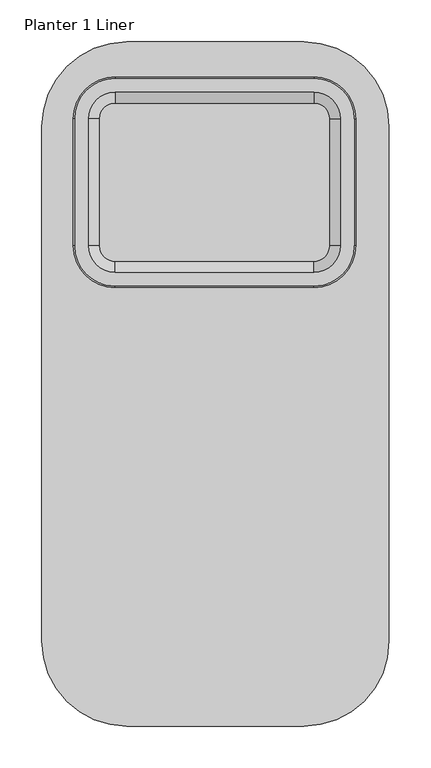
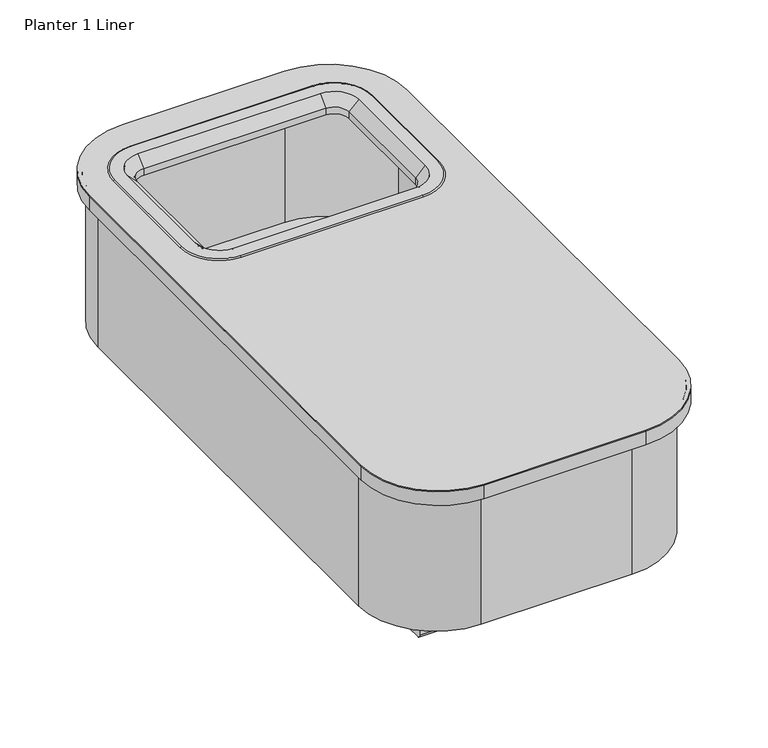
"""IFC4 building model written with IfcOpenShell, lengths in millimetres: furniture geometry, Coalesse_AM_Accessory_Planter_Ensemble_Modular : Planter 1 Liner."""

from ifc_helpers import new_model, si_unit, point, frame, frame_2d, origin, place, context, project, spatial, polyline, circle_curve, ellipse_curve, trimmed, segment, composite_curve, outline, extrude, source, transform, mapped, element, save
from ifc_brep_helpers import plane_surface, cylinder_surface, revolved_surface, advanced_brep


def planter_1_liner_2fb4910a(model_context):
    return source(origin(), model_context, "Body", "SolidModel", [
        advanced_brep(
        [(-99.8317392, 1.5738238, 336.1353963), (1.7667511, 103.1756653, 336.1353963), (1.7667511, 103.1756653, 337.5117024), (-99.8317392, 1.5738238, 337.5117024), (-99.8318137, 6.5835657, 317.458784), (-3.2429907, 103.1755745, 317.458784), (-3.2429907, 103.1755745, 336.1353963), (-99.8318137, 6.5835657, 336.1353963), (-311.6655737, 1.5706763, 337.5117024), (-311.6655737, 1.5706763, 336.1353963), (-311.6656481, 6.5804182, 336.1353963), (-311.6656481, 6.5804182, 317.458784), (-413.2670833, 103.1706763, 337.5117024), (-413.2670833, 103.1706763, 336.1353963), (-408.2573414, 103.1706763, 336.1353963), (-408.2573414, 103.1706763, 317.458784), (-413.2670833, 716.8822036, 337.5117024), (-413.2670833, 716.8822036, 336.1353963), (-408.2573414, 716.8822036, 336.1353963), (-408.2573414, 716.8822036, 317.458784), (-311.6674147, 818.4822036, 337.5117024), (-311.6674147, 818.4822036, 336.1353963), (-311.6673984, 813.4724617, 336.1353963), (-311.6673984, 813.4724617, 317.458784), (-356.4100674, 734.6877585, 317.458784), (-344.7208795, 751.9024687, 317.458784), (-344.7208795, 751.9024687, 337.5117024), (-356.4100674, 734.6877585, 337.5117024), (-99.8447036, 818.4828946, 337.5117024), (-99.8447036, 818.4828946, 336.1353963), (-99.8446872, 813.4731527, 336.1353963), (-99.8446872, 813.4731527, 317.458784), (1.7556278, 716.8847361, 337.5117024), (1.7556278, 716.8847361, 336.1353963), (-3.254114, 716.8846453, 336.1353963), (-3.254114, 716.8846453, 317.458784), (-325.7489393, 758.1941108, 337.5117024), (-88.0437417, 758.1941108, 337.5117024), (-56.2937417, 726.4441108, 337.5117024), (-56.2937417, 575.1960542, 337.5117024), (-88.0437417, 543.4460542, 337.5117024), (-325.7489393, 543.4460542, 337.5117024), (-357.4989393, 575.1960542, 337.5117024), (-357.4989393, 726.4441108, 337.5117024), (-357.4989393, 726.4441108, 317.458784), (-357.4989393, 575.1960542, 317.458784), (-325.7489393, 543.4460542, 317.458784), (-88.0437417, 543.4460542, 317.458784), (-56.2937417, 575.1960542, 317.458784), (-56.2937417, 726.4441108, 317.458784), (-88.0437417, 758.1941108, 317.458784), (-325.7489393, 758.1941108, 317.458784)],
        [
            (0, 1, circle_curve(frame((-99.8332488, 103.1738238, 336.1353963), z_axis=(0.0, 0.0, 1.0), x_axis=(0.9999999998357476, 1.8124700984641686e-05, 0.0)), 101.6)),
            (1, 2),
            (2, 3, circle_curve(frame((-99.8332488, 103.1738238, 337.5117024), z_axis=(0.0, 0.0, -1.0), x_axis=(0.9999999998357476, 1.8124700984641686e-05, 0.0)), 101.6)),
            (3, 0),
            (4, 5, circle_curve(frame((-99.8332488, 103.1738238, 317.458784), z_axis=(0.0, 0.0, 1.0), x_axis=(0.9999999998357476, 1.8124700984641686e-05, 0.0)), 96.5902581)),
            (5, 6),
            (6, 7, circle_curve(frame((-99.8332488, 103.1738238, 336.1353963), z_axis=(0.0, 0.0, -1.0), x_axis=(0.9999999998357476, 1.8124700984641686e-05, 0.0)), 96.5902581)),
            (7, 4),
            (3, 8),
            (8, 9),
            (9, 0),
            (7, 10),
            (10, 11),
            (11, 4),
            (8, 12, circle_curve(frame((-311.6670833, 103.1706763, 337.5117024), z_axis=(0.0, 0.0, -1.0), x_axis=(1.4858351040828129e-05, -0.9999999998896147, 0.0)), 101.6)),
            (12, 13),
            (13, 9, circle_curve(frame((-311.6670833, 103.1706763, 336.1353963), z_axis=(0.0, 0.0, 1.0), x_axis=(1.4858351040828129e-05, -0.9999999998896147, 0.0)), 101.6)),
            (10, 14, circle_curve(frame((-311.6670833, 103.1706763, 336.1353963), z_axis=(0.0, 0.0, -1.0), x_axis=(1.4858351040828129e-05, -0.9999999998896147, 0.0)), 96.5902581)),
            (14, 15),
            (15, 11, circle_curve(frame((-311.6670833, 103.1706763, 317.458784), z_axis=(0.0, 0.0, 1.0), x_axis=(1.4858351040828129e-05, -0.9999999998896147, 0.0)), 96.5902581)),
            (12, 16),
            (16, 17),
            (17, 13),
            (14, 18),
            (18, 19),
            (19, 15),
            (16, 20, circle_curve(frame((-311.6670833, 716.8822036, 337.5117024), z_axis=(0.0, 0.0, -1.0), x_axis=(-1.0, 0.0, 0.0)), 101.6)),
            (20, 21),
            (21, 17, circle_curve(frame((-311.6670833, 716.8822036, 336.1353963), z_axis=(0.0, 0.0, 1.0), x_axis=(-1.0, 0.0, 0.0)), 101.6)),
            (18, 22, circle_curve(frame((-311.6670833, 716.8822036, 336.1353963), z_axis=(0.0, 0.0, -1.0), x_axis=(-1.0, 0.0, 0.0)), 96.5902581)),
            (22, 23),
            (23, 19, circle_curve(frame((-311.6670833, 716.8822036, 317.458784), z_axis=(0.0, 0.0, 1.0), x_axis=(-1.0, 0.0, 0.0)), 96.5902581)),
            (24, 25, circle_curve(frame((-311.6670833, 716.8822036, 317.458784), z_axis=(0.0, 0.0, -1.0), x_axis=(-1.0, 0.0, 0.0)), 48.15571)),
            (25, 26),
            (26, 27, circle_curve(frame((-311.6670833, 716.8822036, 337.5117024), z_axis=(0.0, 0.0, 1.0), x_axis=(-1.0, 0.0, 0.0)), 48.15571)),
            (27, 24),
            (20, 28),
            (28, 29),
            (29, 21),
            (22, 30),
            (30, 31),
            (31, 23),
            (28, 32, circle_curve(frame((-99.8443721, 716.8828946, 337.5117024), z_axis=(0.0, 0.0, -1.0), x_axis=(-3.2622334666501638e-06, 0.9999999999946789, 0.0)), 101.6)),
            (32, 33),
            (33, 29, circle_curve(frame((-99.8443721, 716.8828946, 336.1353963), z_axis=(0.0, 0.0, 1.0), x_axis=(-3.2622334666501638e-06, 0.9999999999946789, 0.0)), 101.6)),
            (30, 34, circle_curve(frame((-99.8443721, 716.8828946, 336.1353963), z_axis=(0.0, 0.0, -1.0), x_axis=(-3.2622334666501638e-06, 0.9999999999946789, 0.0)), 96.5902581)),
            (34, 35),
            (35, 31, circle_curve(frame((-99.8443721, 716.8828946, 317.458784), z_axis=(0.0, 0.0, 1.0), x_axis=(-3.2622334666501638e-06, 0.9999999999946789, 0.0)), 96.5902581)),
            (2, 32),
            (26, 36, circle_curve(frame((-325.7489393, 726.4441108, 337.5117024), z_axis=(0.0, 0.0, -1.0), x_axis=(-1.0, 0.0, 0.0)), 31.75)),
            (36, 37),
            (37, 38, circle_curve(frame((-88.0437417, 726.4441108, 337.5117024), z_axis=(0.0, 0.0, -1.0), x_axis=(0.0, 1.0, 0.0)), 31.75)),
            (38, 39),
            (39, 40, circle_curve(frame((-88.0437417, 575.1960542, 337.5117024), z_axis=(0.0, 0.0, -1.0), x_axis=(1.0, 0.0, 0.0)), 31.75)),
            (40, 41),
            (41, 42, circle_curve(frame((-325.7489393, 575.1960542, 337.5117024), z_axis=(0.0, 0.0, -1.0), x_axis=(0.0, -1.0, 0.0)), 31.75)),
            (42, 43),
            (43, 27, circle_curve(frame((-325.7489393, 726.4441108, 337.5117024), z_axis=(0.0, 0.0, -1.0), x_axis=(-1.0, 0.0, 0.0)), 31.75)),
            (1, 33),
            (6, 34),
            (5, 35),
            (24, 44, circle_curve(frame((-325.7489393, 726.4441108, 317.458784), z_axis=(0.0, 0.0, 1.0), x_axis=(-1.0, 0.0, 0.0)), 31.75)),
            (44, 45),
            (45, 46, circle_curve(frame((-325.7489393, 575.1960542, 317.458784), z_axis=(0.0, 0.0, 1.0), x_axis=(0.0, -1.0, 0.0)), 31.75)),
            (46, 47),
            (47, 48, circle_curve(frame((-88.0437417, 575.1960542, 317.458784), z_axis=(0.0, 0.0, 1.0), x_axis=(1.0, 0.0, 0.0)), 31.75)),
            (48, 49),
            (49, 50, circle_curve(frame((-88.0437417, 726.4441108, 317.458784), z_axis=(0.0, 0.0, 1.0), x_axis=(0.0, 1.0, 0.0)), 31.75)),
            (50, 51),
            (51, 25, circle_curve(frame((-325.7489393, 726.4441108, 317.458784), z_axis=(0.0, 0.0, 1.0), x_axis=(-1.0, 0.0, 0.0)), 31.75)),
            (45, 42),
            (41, 46),
            (44, 43),
            (51, 36),
            (50, 37),
            (49, 38),
            (48, 39),
            (47, 40),
        ],
        [
            cylinder_surface(frame((-99.8332488, 103.1738238, 0.0), z_axis=(0.0, 0.0, -1.0), x_axis=(0.9999999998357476, 1.8124700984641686e-05, 0.0)), 101.6),
            cylinder_surface(frame((-99.8332488, 103.1738238, 0.0), z_axis=(0.0, 0.0, -1.0), x_axis=(0.9999999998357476, 1.8124700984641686e-05, 0.0)), 96.5902581),
            plane_surface(frame((-99.8317392, 1.5738238, 337.5117024), z_axis=(1.4858351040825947e-05, -0.9999999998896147, 0.0), x_axis=(-0.9999999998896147, -1.4858351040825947e-05, 0.0))),
            plane_surface(frame((-99.8318137, 6.5835657, 336.1353963), z_axis=(1.4858351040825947e-05, -0.9999999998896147, 0.0), x_axis=(-0.9999999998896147, -1.4858351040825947e-05, 0.0))),
            cylinder_surface(frame((-311.6670833, 103.1706763, 0.0), z_axis=(0.0, 0.0, -1.0), x_axis=(1.4858351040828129e-05, -0.9999999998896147, 0.0)), 101.6),
            cylinder_surface(frame((-311.6670833, 103.1706763, 0.0), z_axis=(0.0, 0.0, -1.0), x_axis=(1.4858351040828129e-05, -0.9999999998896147, 0.0)), 96.5902581),
            plane_surface(frame((-413.2670833, 103.1706763, 337.5117024), z_axis=(-1.0, 0.0, 0.0), x_axis=(0.0, 1.0, 0.0))),
            plane_surface(frame((-408.2573414, 103.1706763, 336.1353963), z_axis=(-1.0, 0.0, 0.0), x_axis=(0.0, 1.0, 0.0))),
            cylinder_surface(frame((-311.6670833, 716.8822036, 0.0), z_axis=(0.0, 0.0, -1.0), x_axis=(-1.0, 0.0, 0.0)), 101.6),
            cylinder_surface(frame((-311.6670833, 716.8822036, 0.0), z_axis=(0.0, 0.0, -1.0), x_axis=(-1.0, 0.0, 0.0)), 96.5902581),
            revolved_surface(polyline([(-359.8227933, 716.8822036, 317.458784), (-359.8227933, 716.8822036, 337.5117024)]), (-311.6670833, 716.8822036, 0.0), (0.0, 0.0, -1.0)),
            plane_surface(frame((-311.6674147, 818.4822036, 337.5117024), z_axis=(-3.2622334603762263e-06, 0.9999999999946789, 0.0), x_axis=(0.9999999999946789, 3.2622334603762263e-06, 0.0))),
            plane_surface(frame((-311.6673984, 813.4724617, 336.1353963), z_axis=(-3.2622334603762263e-06, 0.9999999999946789, 0.0), x_axis=(0.9999999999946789, 3.2622334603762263e-06, 0.0))),
            cylinder_surface(frame((-99.8443721, 716.8828946, 0.0), z_axis=(0.0, 0.0, -1.0), x_axis=(-3.2622334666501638e-06, 0.9999999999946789, 0.0)), 101.6),
            cylinder_surface(frame((-99.8443721, 716.8828946, 0.0), z_axis=(0.0, 0.0, -1.0), x_axis=(-3.2622334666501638e-06, 0.9999999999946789, 0.0)), 96.5902581),
            plane_surface(frame((-51.6886621, 716.8837674, 337.5117024), z_axis=(0.0, 0.0, 1.0), x_axis=(1.812470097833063e-05, -0.9999999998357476, 0.0))),
            plane_surface(frame((1.7556278, 716.8847361, 337.5117024), z_axis=(0.9999999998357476, 1.81247009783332e-05, 0.0), x_axis=(1.81247009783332e-05, -0.9999999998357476, 0.0))),
            plane_surface(frame((1.7556278, 716.8847361, 336.1353963), z_axis=(0.0, 0.0, -1.0), x_axis=(1.81247009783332e-05, -0.9999999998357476, 0.0))),
            plane_surface(frame((-3.254114, 716.8846453, 336.1353963), z_axis=(0.9999999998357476, 1.812470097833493e-05, 0.0), x_axis=(1.812470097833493e-05, -0.9999999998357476, 0.0))),
            plane_surface(frame((-3.254114, 716.8846453, 317.458784), z_axis=(0.0, 0.0, -1.0), x_axis=(1.812470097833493e-05, -0.9999999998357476, 0.0))),
            revolved_surface(polyline([(-325.7489393, 543.4460542, 317.458784), (-325.7489393, 543.4460542, 337.5117024)]), (-325.7489393, 575.1960542, 0.0), (0.0, 0.0, -1.0)),
            plane_surface(frame((-357.4989393, 575.1960542, 337.5117024), z_axis=(1.0, 0.0, 0.0), x_axis=(0.0, 0.0, -1.0))),
            revolved_surface(polyline([(-357.4989393, 726.4441108, 317.458784), (-357.4989393, 726.4441108, 337.5117024)]), (-325.7489393, 726.4441108, 0.0), (0.0, 0.0, -1.0)),
            plane_surface(frame((-325.7489393, 758.1941108, 337.5117024), z_axis=(0.0, -1.0, 0.0), x_axis=(0.0, 0.0, -1.0))),
            revolved_surface(polyline([(-88.0437417, 758.1941108, 317.458784), (-88.0437417, 758.1941108, 337.5117024)]), (-88.0437417, 726.4441108, 0.0), (0.0, 0.0, -1.0)),
            plane_surface(frame((-56.2937417, 726.4441108, 337.5117024), z_axis=(-1.0, 0.0, 0.0), x_axis=(0.0, 0.0, -1.0))),
            revolved_surface(polyline([(-56.2937417, 575.1960542, 317.458784), (-56.2937417, 575.1960542, 337.5117024)]), (-88.0437417, 575.1960542, 0.0), (0.0, 0.0, -1.0)),
            plane_surface(frame((-88.0437417, 543.4460542, 337.5117024), z_axis=(0.0, 1.0, 0.0), x_axis=(0.0, 0.0, -1.0))),
        ],
        [
            (0, [[1, 2, 3, 4]]),
            (1, [[5, 6, 7, 8]]),
            (2, [[-4, 9, 10, 11]]),
            (3, [[-8, 12, 13, 14]]),
            (4, [[-10, 15, 16, 17]]),
            (5, [[-13, 18, 19, 20]]),
            (6, [[-16, 21, 22, 23]]),
            (7, [[-19, 24, 25, 26]]),
            (8, [[-22, 27, 28, 29]]),
            (9, [[-25, 30, 31, 32]]),
            (10, [[33, 34, 35, 36]]),
            (11, [[-28, 37, 38, 39]]),
            (12, [[-31, 40, 41, 42]]),
            (13, [[-38, 43, 44, 45]]),
            (14, [[-41, 46, 47, 48]]),
            (15, [[-3, 49, -43, -37, -27, -21, -15, -9], [-35, 50, 51, 52, 53, 54, 55, 56, 57, 58]]),
            (16, [[-2, 59, -44, -49]]),
            (17, [[-1, -11, -17, -23, -29, -39, -45, -59], [-7, 60, -46, -40, -30, -24, -18, -12]]),
            (18, [[-6, 61, -47, -60]]),
            (19, [[-5, -14, -20, -26, -32, -42, -48, -61], [-33, 62, 63, 64, 65, 66, 67, 68, 69, 70]]),
            (20, [[-64, 71, -56, 72]]),
            (21, [[-63, 73, -57, -71]]),
            (22, [[-73, -62, -36, -58]]),
            (22, [[74, -50, -34, -70]]),
            (23, [[-69, 75, -51, -74]]),
            (24, [[-68, 76, -52, -75]]),
            (25, [[-67, 77, -53, -76]]),
            (26, [[-66, 78, -54, -77]]),
            (27, [[-65, -72, -55, -78]]),
        ],
    ),
        extrude(outline(composite_curve([segment(polyline([(-311.6674147, 818.4822036), (-99.8447036, 818.4828946)]), True, "CONTINUOUS"), segment(trimmed(circle_curve(frame_2d((-99.8443721, 716.8828946)), 101.6), [point((-99.8447036, 818.4828946))], [point((1.7556278, 716.8847361))], False, "CARTESIAN"), True, "CONTINUOUS"), segment(polyline([(1.7556278, 716.8847361), (1.7667511, 103.1756653)]), True, "CONTINUOUS"), segment(trimmed(circle_curve(frame_2d((-99.8332488, 103.1738238)), 101.6), [point((1.7667511, 103.1756653))], [point((-99.8317392, 1.5738238))], False, "CARTESIAN"), True, "CONTINUOUS"), segment(polyline([(-99.8317392, 1.5738238), (-311.6655737, 1.5706763)]), True, "CONTINUOUS"), segment(trimmed(circle_curve(frame_2d((-311.6670833, 103.1706763)), 101.6), [point((-311.6655737, 1.5706763))], [point((-413.2670833, 103.1706763))], False, "CARTESIAN"), True, "CONTINUOUS"), segment(polyline([(-413.2670833, 103.1706763), (-413.2670833, 716.8822036)]), True, "CONTINUOUS"), segment(trimmed(circle_curve(frame_2d((-311.6670833, 716.8822036)), 101.6), [point((-413.2670833, 716.8822036))], [point((-311.6674147, 818.4822036))], False, "CARTESIAN"), True, "CONTINUOUS")], self_intersect=False), holes=[composite_curve([segment(trimmed(circle_curve(frame_2d((-311.6670833, 716.8822036)), 96.52), [point((-311.6673981, 813.4022036))], [point((-408.1870833, 716.8822036))], True, "CARTESIAN"), True, "CONTINUOUS"), segment(polyline([(-408.1870833, 716.8822036), (-408.1870833, 103.1706763)]), True, "CONTINUOUS"), segment(trimmed(circle_curve(frame_2d((-311.6670833, 103.1706763)), 96.52), [point((-408.1870833, 103.1706763))], [point((-311.6656491, 6.6506763))], True, "CARTESIAN"), True, "CONTINUOUS"), segment(polyline([(-311.6656491, 6.6506763), (-99.8318147, 6.6538238)]), True, "CONTINUOUS"), segment(trimmed(circle_curve(frame_2d((-99.8332488, 103.1738238)), 96.52), [point((-99.8318147, 6.6538238))], [point((-3.3132489, 103.1755732))], True, "CARTESIAN"), True, "CONTINUOUS"), segment(polyline([(-3.3132489, 103.1755732), (-3.3243722, 716.884644)]), True, "CONTINUOUS"), segment(trimmed(circle_curve(frame_2d((-99.8443721, 716.8828946)), 96.52), [point((-3.3243722, 716.884644))], [point((-99.844687, 813.4028946))], True, "CARTESIAN"), True, "CONTINUOUS"), segment(polyline([(-99.844687, 813.4028946), (-311.6673981, 813.4022036)]), True, "CONTINUOUS")], self_intersect=False)]), frame((0.0, 0.0, 317.458784), z_axis=(0.0, 0.0, 1.0), x_axis=(1.0, 0.0, 0.0)), (0.0, 0.0, 1.0), 18.6766123),
        advanced_brep(
        [(-88.0437417, 524.922108, 337.5117024), (-37.7697955, 575.1960542, 337.5117024), (-39.5041047, 575.1960542, 339.0842809), (-88.0437417, 526.6564171, 339.0842809), (-325.7489393, 526.6564171, 339.0842809), (-325.7489393, 524.922108, 337.5117024), (-376.0228855, 575.1960542, 337.5117024), (-374.2885764, 575.1960542, 339.0842809), (-374.2885764, 726.4441108, 339.0842809), (-376.0228855, 726.4441108, 337.5117024), (-325.7489393, 776.718057, 337.5117024), (-325.7489393, 774.9837478, 339.0842809), (-88.0437417, 774.9837478, 339.0842809), (-88.0437417, 776.718057, 337.5117024), (-37.7697955, 726.4441108, 337.5117024), (-39.5041047, 726.4441108, 339.0842809), (-325.7489393, 758.1899065, 339.0842809), (-88.0437417, 758.1899065, 339.0842809), (-56.297946, 726.4441108, 339.0842809), (-56.297946, 575.1960542, 339.0842809), (-88.0437417, 543.4502585, 339.0842809), (-325.7489393, 543.4502585, 339.0842809), (-357.494735, 575.1960542, 339.0842809), (-357.494735, 726.4441108, 339.0842809), (-56.0744732, 575.1960542, 337.5117024), (-56.0744732, 726.4441108, 337.5117024), (-88.0437417, 758.4133793, 337.5117024), (-325.7489393, 758.4133793, 337.5117024), (-357.7182078, 726.4441108, 337.5117024), (-357.7182078, 575.1960542, 337.5117024), (-325.7489393, 543.2267857, 337.5117024), (-88.0437417, 543.2267857, 337.5117024), (-88.0437417, 554.9218418, 325.8166463), (-67.7695293, 575.1960542, 325.8166463), (-88.0437417, 554.9218418, 317.458784), (-67.7695293, 575.1960542, 317.458784), (-88.0437417, 556.1918418, 326.3426976), (-69.0395293, 575.1960542, 326.3426976), (-69.0395293, 575.1960542, 317.458784), (-88.0437417, 556.1918418, 317.458784), (-325.7489393, 554.9218418, 325.8166463), (-325.7489393, 554.9218418, 317.458784), (-325.7489393, 556.1918418, 317.458784), (-325.7489393, 556.1918418, 326.3426976), (-346.0231517, 575.1960542, 325.8166463), (-346.0231517, 575.1960542, 317.458784), (-344.7531517, 575.1960542, 326.3426976), (-344.7531517, 575.1960542, 317.458784), (-346.0231517, 726.4441108, 325.8166463), (-346.0231517, 726.4441108, 317.458784), (-344.7531517, 726.4441108, 317.458784), (-344.7531517, 726.4441108, 326.3426976), (-325.7489393, 746.7183232, 325.8166463), (-325.7489393, 746.7183232, 317.458784), (-325.7489393, 745.4483232, 326.3426976), (-325.7489393, 745.4483232, 317.458784), (-88.0437417, 746.7183232, 325.8166463), (-88.0437417, 746.7183232, 317.458784), (-88.0437417, 745.4483232, 317.458784), (-88.0437417, 745.4483232, 326.3426976), (-67.7695293, 726.4441108, 325.8166463), (-67.7695293, 726.4441108, 317.458784), (-69.0395293, 726.4441108, 326.3426976), (-69.0395293, 726.4441108, 317.458784)],
        [
            (0, 1, circle_curve(frame((-88.0437417, 575.1960542, 337.5117024), z_axis=(0.0, 0.0, 1.0), x_axis=(1.0, 0.0, 0.0)), 50.2739462)),
            (1, 2, circle_curve(frame((-39.5041047, 575.1960542, 337.3416552), z_axis=(0.0, -1.0, 0.0), x_axis=(1.0, 0.0, 0.0)), 1.7426257)),
            (2, 3, circle_curve(frame((-88.0437417, 575.1960542, 339.0842809), z_axis=(0.0, 0.0, -1.0), x_axis=(1.0, 0.0, 0.0)), 48.539637)),
            (3, 0, circle_curve(frame((-88.0437417, 526.6564171, 337.3416552), z_axis=(1.0, 0.0, 0.0), x_axis=(0.0, -1.0, 0.0)), 1.7426257)),
            (3, 4),
            (4, 5, circle_curve(frame((-325.7489393, 526.6564171, 337.3416552), z_axis=(1.0, 0.0, 0.0), x_axis=(0.0, -1.0, 0.0)), 1.7426257)),
            (5, 0),
            (6, 5, circle_curve(frame((-325.7489393, 575.1960542, 337.5117024), z_axis=(0.0, 0.0, 1.0), x_axis=(0.0, -1.0, 0.0)), 50.2739462)),
            (4, 7, circle_curve(frame((-325.7489393, 575.1960542, 339.0842809), z_axis=(0.0, 0.0, -1.0), x_axis=(0.0, -1.0, 0.0)), 48.539637)),
            (7, 6, circle_curve(frame((-374.2885764, 575.1960542, 337.3416552), z_axis=(0.0, -1.0, 0.0), x_axis=(-1.0, 0.0, 0.0)), 1.7426257)),
            (7, 8),
            (8, 9, circle_curve(frame((-374.2885764, 726.4441108, 337.3416552), z_axis=(0.0, -1.0, 0.0), x_axis=(-1.0, 0.0, 0.0)), 1.7426257)),
            (9, 6),
            (10, 9, circle_curve(frame((-325.7489393, 726.4441108, 337.5117024), z_axis=(0.0, 0.0, 1.0), x_axis=(-1.0, 0.0, 0.0)), 50.2739462)),
            (8, 11, circle_curve(frame((-325.7489393, 726.4441108, 339.0842809), z_axis=(0.0, 0.0, -1.0), x_axis=(-1.0, 0.0, 0.0)), 48.539637)),
            (11, 10, circle_curve(frame((-325.7489393, 774.9837478, 337.3416552), z_axis=(-1.0, 0.0, 0.0), x_axis=(0.0, 1.0, 0.0)), 1.7426257)),
            (11, 12),
            (12, 13, circle_curve(frame((-88.0437417, 774.9837478, 337.3416552), z_axis=(-1.0, 0.0, 0.0), x_axis=(0.0, 1.0, 0.0)), 1.7426257)),
            (13, 10),
            (14, 13, circle_curve(frame((-88.0437417, 726.4441108, 337.5117024), z_axis=(0.0, 0.0, 1.0), x_axis=(0.0, 1.0, 0.0)), 50.2739462)),
            (12, 15, circle_curve(frame((-88.0437417, 726.4441108, 339.0842809), z_axis=(0.0, 0.0, -1.0), x_axis=(0.0, 1.0, 0.0)), 48.539637)),
            (15, 14, circle_curve(frame((-39.5041047, 726.4441108, 337.3416552), z_axis=(0.0, 1.0, 0.0), x_axis=(1.0, 0.0, 0.0)), 1.7426257)),
            (2, 15),
            (16, 17),
            (17, 18, circle_curve(frame((-88.0437417, 726.4441108, 339.0842809), z_axis=(0.0, 0.0, -1.0), x_axis=(0.0, 1.0, 0.0)), 31.7457957)),
            (18, 19),
            (19, 20, circle_curve(frame((-88.0437417, 575.1960542, 339.0842809), z_axis=(0.0, 0.0, -1.0), x_axis=(1.0, 0.0, 0.0)), 31.7457957)),
            (20, 21),
            (21, 22, circle_curve(frame((-325.7489393, 575.1960542, 339.0842809), z_axis=(0.0, 0.0, -1.0), x_axis=(0.0, -1.0, 0.0)), 31.7457957)),
            (22, 23),
            (23, 16, circle_curve(frame((-325.7489393, 726.4441108, 339.0842809), z_axis=(0.0, 0.0, -1.0), x_axis=(-1.0, 0.0, 0.0)), 31.7457957)),
            (1, 14),
            (24, 25),
            (25, 26, circle_curve(frame((-88.0437417, 726.4441108, 337.5117024), z_axis=(0.0, 0.0, 1.0), x_axis=(0.0, 1.0, 0.0)), 31.9692685)),
            (26, 27),
            (27, 28, circle_curve(frame((-325.7489393, 726.4441108, 337.5117024), z_axis=(0.0, 0.0, 1.0), x_axis=(-1.0, 0.0, 0.0)), 31.9692685)),
            (28, 29),
            (29, 30, circle_curve(frame((-325.7489393, 575.1960542, 337.5117024), z_axis=(0.0, 0.0, 1.0), x_axis=(0.0, -1.0, 0.0)), 31.9692685)),
            (30, 31),
            (31, 24, circle_curve(frame((-88.0437417, 575.1960542, 337.5117024), z_axis=(0.0, 0.0, 1.0), x_axis=(1.0, 0.0, 0.0)), 31.9692685)),
            (32, 33, circle_curve(frame((-88.0437417, 575.1960542, 325.8166463), z_axis=(0.0, 0.0, 1.0), x_axis=(1.0, 0.0, 0.0)), 20.2742124)),
            (33, 24),
            (31, 32),
            (34, 35, circle_curve(frame((-88.0437417, 575.1960542, 317.458784), z_axis=(0.0, 0.0, 1.0), x_axis=(1.0, 0.0, 0.0)), 20.2742124)),
            (35, 33),
            (32, 34),
            (36, 37, circle_curve(frame((-88.0437417, 575.1960542, 326.3426976), z_axis=(0.0, 0.0, 1.0), x_axis=(1.0, 0.0, 0.0)), 19.0042124)),
            (37, 38),
            (38, 39, circle_curve(frame((-88.0437417, 575.1960542, 317.458784), z_axis=(0.0, 0.0, -1.0), x_axis=(1.0, 0.0, 0.0)), 19.0042124)),
            (39, 36),
            (19, 37),
            (36, 20),
            (30, 40),
            (40, 32),
            (40, 41),
            (41, 34),
            (39, 42),
            (42, 43),
            (43, 36),
            (43, 21),
            (44, 40, circle_curve(frame((-325.7489393, 575.1960542, 325.8166463), z_axis=(0.0, 0.0, 1.0), x_axis=(0.0, -1.0, 0.0)), 20.2742124)),
            (29, 44),
            (45, 41, circle_curve(frame((-325.7489393, 575.1960542, 317.458784), z_axis=(0.0, 0.0, 1.0), x_axis=(0.0, -1.0, 0.0)), 20.2742124)),
            (44, 45),
            (46, 43, circle_curve(frame((-325.7489393, 575.1960542, 326.3426976), z_axis=(0.0, 0.0, 1.0), x_axis=(0.0, -1.0, 0.0)), 19.0042124)),
            (42, 47, circle_curve(frame((-325.7489393, 575.1960542, 317.458784), z_axis=(0.0, 0.0, -1.0), x_axis=(0.0, -1.0, 0.0)), 19.0042124)),
            (47, 46),
            (46, 22),
            (28, 48),
            (48, 44),
            (48, 49),
            (49, 45),
            (47, 50),
            (50, 51),
            (51, 46),
            (51, 23),
            (52, 48, circle_curve(frame((-325.7489393, 726.4441108, 325.8166463), z_axis=(0.0, 0.0, 1.0), x_axis=(-1.0, 0.0, 0.0)), 20.2742124)),
            (27, 52),
            (53, 49, circle_curve(frame((-325.7489393, 726.4441108, 317.458784), z_axis=(0.0, 0.0, 1.0), x_axis=(-1.0, 0.0, 0.0)), 20.2742124)),
            (52, 53),
            (54, 51, circle_curve(frame((-325.7489393, 726.4441108, 326.3426976), z_axis=(0.0, 0.0, 1.0), x_axis=(-1.0, 0.0, 0.0)), 19.0042124)),
            (50, 55, circle_curve(frame((-325.7489393, 726.4441108, 317.458784), z_axis=(0.0, 0.0, -1.0), x_axis=(-1.0, 0.0, 0.0)), 19.0042124)),
            (55, 54),
            (54, 16),
            (26, 56),
            (56, 52),
            (56, 57),
            (57, 53),
            (55, 58),
            (58, 59),
            (59, 54),
            (59, 17),
            (60, 56, circle_curve(frame((-88.0437417, 726.4441108, 325.8166463), z_axis=(0.0, 0.0, 1.0), x_axis=(0.0, 1.0, 0.0)), 20.2742124)),
            (25, 60),
            (61, 57, circle_curve(frame((-88.0437417, 726.4441108, 317.458784), z_axis=(0.0, 0.0, 1.0), x_axis=(0.0, 1.0, 0.0)), 20.2742124)),
            (60, 61),
            (62, 59, circle_curve(frame((-88.0437417, 726.4441108, 326.3426976), z_axis=(0.0, 0.0, 1.0), x_axis=(0.0, 1.0, 0.0)), 19.0042124)),
            (58, 63, circle_curve(frame((-88.0437417, 726.4441108, 317.458784), z_axis=(0.0, 0.0, -1.0), x_axis=(0.0, 1.0, 0.0)), 19.0042124)),
            (63, 62),
            (62, 18),
            (33, 60),
            (35, 61),
            (38, 63),
            (37, 62),
        ],
        [
            revolved_surface(trimmed(ellipse_curve(frame((-39.5041047, 575.1960542, 337.3416552), z_axis=(0.0, 1.0, 0.0), x_axis=(1.0, 0.0, 0.0)), 1.7426257, 1.7426257), [point((-39.5041047, 575.1960542, 339.0842809))], [point((-37.7697955, 575.1960542, 337.5117024))], True, "CARTESIAN"), (-88.0437417, 575.1960542, 0.0), (0.0, 0.0, -1.0)),
            cylinder_surface(frame((-88.0437417, 526.6564171, 337.3416552), z_axis=(1.0, 0.0, 0.0), x_axis=(0.0, -1.0, 0.0)), 1.7426257),
            revolved_surface(trimmed(ellipse_curve(frame((-325.7489393, 526.6564171, 337.3416552), z_axis=(1.0, 0.0, 0.0), x_axis=(0.0, -1.0, 0.0)), 1.7426257, 1.7426257), [point((-325.7489393, 526.6564171, 339.0842809))], [point((-325.7489393, 524.922108, 337.5117024))], True, "CARTESIAN"), (-325.7489393, 575.1960542, 0.0), (0.0, 0.0, -1.0)),
            cylinder_surface(frame((-374.2885764, 575.1960542, 337.3416552), z_axis=(0.0, -1.0, 0.0), x_axis=(-1.0, 0.0, 0.0)), 1.7426257),
            revolved_surface(trimmed(ellipse_curve(frame((-374.2885764, 726.4441108, 337.3416552), z_axis=(0.0, -1.0, 0.0), x_axis=(-1.0, 0.0, 0.0)), 1.7426257, 1.7426257), [point((-374.2885764, 726.4441108, 339.0842809))], [point((-376.0228855, 726.4441108, 337.5117024))], True, "CARTESIAN"), (-325.7489393, 726.4441108, 0.0), (0.0, 0.0, -1.0)),
            cylinder_surface(frame((-325.7489393, 774.9837478, 337.3416552), z_axis=(-1.0, 0.0, 0.0), x_axis=(0.0, 1.0, 0.0)), 1.7426257),
            revolved_surface(trimmed(ellipse_curve(frame((-88.0437417, 774.9837478, 337.3416552), z_axis=(-1.0, 0.0, 0.0), x_axis=(0.0, 1.0, 0.0)), 1.7426257, 1.7426257), [point((-88.0437417, 774.9837478, 339.0842809))], [point((-88.0437417, 776.718057, 337.5117024))], True, "CARTESIAN"), (-88.0437417, 726.4441108, 0.0), (0.0, 0.0, -1.0)),
            plane_surface(frame((-56.297946, 726.4441108, 339.0842809), z_axis=(0.0, 0.0, 1.0), x_axis=(0.0, -1.0, 0.0))),
            cylinder_surface(frame((-39.5041047, 726.4441108, 337.3416552), z_axis=(0.0, 1.0, 0.0), x_axis=(1.0, 0.0, 0.0)), 1.7426257),
            plane_surface(frame((-37.7697955, 726.4441108, 337.5117024), z_axis=(0.0, 0.0, -1.0), x_axis=(0.0, -1.0, 0.0))),
            revolved_surface(polyline([(-56.0744732, 575.1960542, 337.5117024), (-67.7695293, 575.1960542, 325.8166463)]), (-88.0437417, 575.1960542, 0.0), (0.0, 0.0, -1.0)),
            cylinder_surface(frame((-88.0437417, 575.1960542, 0.0), z_axis=(0.0, 0.0, -1.0), x_axis=(1.0, 0.0, 0.0)), 20.2742124),
            revolved_surface(polyline([(-69.0395293, 575.1960542, 317.458784), (-69.0395293, 575.1960542, 326.3426976)]), (-88.0437417, 575.1960542, 0.0), (0.0, 0.0, -1.0)),
            revolved_surface(polyline([(-69.0395293, 575.1960542, 326.3426976), (-56.297946, 575.1960542, 339.0842809)]), (-88.0437417, 575.1960542, 0.0), (0.0, 0.0, -1.0)),
            plane_surface(frame((-88.0437417, 543.2267857, 337.5117024), z_axis=(0.0, -0.7071067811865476, -0.7071067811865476), x_axis=(-1.0, 0.0, 0.0))),
            plane_surface(frame((-88.0437417, 554.9218418, 325.8166463), z_axis=(0.0, -1.0, 0.0), x_axis=(-1.0, 0.0, 0.0))),
            plane_surface(frame((-88.0437417, 556.1918418, 317.458784), z_axis=(0.0, 1.0, 0.0), x_axis=(-1.0, 0.0, 0.0))),
            plane_surface(frame((-88.0437417, 556.1918418, 326.3426976), z_axis=(0.0, 0.7071067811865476, 0.7071067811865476), x_axis=(-1.0, 0.0, 0.0))),
            revolved_surface(polyline([(-325.7489393, 543.2267857, 337.5117024), (-325.7489393, 554.9218418, 325.8166463)]), (-325.7489393, 575.1960542, 0.0), (0.0, 0.0, -1.0)),
            cylinder_surface(frame((-325.7489393, 575.1960542, 0.0), z_axis=(0.0, 0.0, -1.0), x_axis=(0.0, -1.0, 0.0)), 20.2742124),
            revolved_surface(polyline([(-325.7489393, 556.1918418, 317.458784), (-325.7489393, 556.1918418, 326.3426976)]), (-325.7489393, 575.1960542, 0.0), (0.0, 0.0, -1.0)),
            revolved_surface(polyline([(-325.7489393, 556.1918418, 326.3426976), (-325.7489393, 543.4502585, 339.0842809)]), (-325.7489393, 575.1960542, 0.0), (0.0, 0.0, -1.0)),
            plane_surface(frame((-357.7182078, 575.1960542, 337.5117024), z_axis=(-0.7071067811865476, 0.0, -0.7071067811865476), x_axis=(0.0, 1.0, 0.0))),
            plane_surface(frame((-346.0231517, 575.1960542, 325.8166463), z_axis=(-1.0, 0.0, 0.0), x_axis=(0.0, 1.0, 0.0))),
            plane_surface(frame((-344.7531517, 575.1960542, 317.458784), z_axis=(1.0, 0.0, 0.0), x_axis=(0.0, 1.0, 0.0))),
            plane_surface(frame((-344.7531517, 575.1960542, 326.3426976), z_axis=(0.7071067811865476, 0.0, 0.7071067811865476), x_axis=(0.0, 1.0, 0.0))),
            revolved_surface(polyline([(-357.7182078, 726.4441108, 337.5117024), (-346.0231517, 726.4441108, 325.8166463)]), (-325.7489393, 726.4441108, 0.0), (0.0, 0.0, -1.0)),
            cylinder_surface(frame((-325.7489393, 726.4441108, 0.0), z_axis=(0.0, 0.0, -1.0), x_axis=(-1.0, 0.0, 0.0)), 20.2742124),
            revolved_surface(polyline([(-344.7531517, 726.4441108, 317.458784), (-344.7531517, 726.4441108, 326.3426976)]), (-325.7489393, 726.4441108, 0.0), (0.0, 0.0, -1.0)),
            revolved_surface(polyline([(-344.7531517, 726.4441108, 326.3426976), (-357.494735, 726.4441108, 339.0842809)]), (-325.7489393, 726.4441108, 0.0), (0.0, 0.0, -1.0)),
            plane_surface(frame((-325.7489393, 758.4133793, 337.5117024), z_axis=(0.0, 0.7071067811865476, -0.7071067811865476), x_axis=(1.0, 0.0, 0.0))),
            plane_surface(frame((-325.7489393, 746.7183232, 325.8166463), z_axis=(0.0, 1.0, 0.0), x_axis=(1.0, 0.0, 0.0))),
            plane_surface(frame((-325.7489393, 745.4483232, 317.458784), z_axis=(0.0, -1.0, 0.0), x_axis=(1.0, 0.0, 0.0))),
            plane_surface(frame((-325.7489393, 745.4483232, 326.3426976), z_axis=(0.0, -0.7071067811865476, 0.7071067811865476), x_axis=(1.0, 0.0, 0.0))),
            revolved_surface(polyline([(-88.0437417, 758.4133793, 337.5117024), (-88.0437417, 746.7183232, 325.8166463)]), (-88.0437417, 726.4441108, 0.0), (0.0, 0.0, -1.0)),
            cylinder_surface(frame((-88.0437417, 726.4441108, 0.0), z_axis=(0.0, 0.0, -1.0), x_axis=(0.0, 1.0, 0.0)), 20.2742124),
            revolved_surface(polyline([(-88.0437417, 745.4483232, 317.458784), (-88.0437417, 745.4483232, 326.3426976)]), (-88.0437417, 726.4441108, 0.0), (0.0, 0.0, -1.0)),
            revolved_surface(polyline([(-88.0437417, 745.4483232, 326.3426976), (-88.0437417, 758.1899065, 339.0842809)]), (-88.0437417, 726.4441108, 0.0), (0.0, 0.0, -1.0)),
            plane_surface(frame((-56.0744732, 726.4441108, 337.5117024), z_axis=(0.7071067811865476, 0.0, -0.7071067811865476), x_axis=(0.0, -1.0, 0.0))),
            plane_surface(frame((-67.7695293, 726.4441108, 325.8166463), z_axis=(1.0, 0.0, 0.0), x_axis=(0.0, -1.0, 0.0))),
            plane_surface(frame((-67.7695293, 726.4441108, 317.458784), z_axis=(0.0, 0.0, -1.0), x_axis=(0.0, -1.0, 0.0))),
            plane_surface(frame((-69.0395293, 726.4441108, 317.458784), z_axis=(-1.0, 0.0, 0.0), x_axis=(0.0, -1.0, 0.0))),
            plane_surface(frame((-69.0395293, 726.4441108, 326.3426976), z_axis=(-0.7071067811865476, 0.0, 0.7071067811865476), x_axis=(0.0, -1.0, 0.0))),
        ],
        [
            (0, [[1, 2, 3, 4]]),
            (1, [[-4, 5, 6, 7]]),
            (2, [[8, -6, 9, 10]]),
            (3, [[-10, 11, 12, 13]]),
            (4, [[14, -12, 15, 16]]),
            (5, [[-16, 17, 18, 19]]),
            (6, [[20, -18, 21, 22]]),
            (7, [[23, -21, -17, -15, -11, -9, -5, -3], [24, 25, 26, 27, 28, 29, 30, 31]]),
            (8, [[-22, -23, -2, 32]]),
            (9, [[-19, -20, -32, -1, -7, -8, -13, -14], [33, 34, 35, 36, 37, 38, 39, 40]]),
            (10, [[41, 42, -40, 43]]),
            (11, [[44, 45, -41, 46]]),
            (12, [[47, 48, 49, 50]]),
            (13, [[-27, 51, -47, 52]]),
            (14, [[-43, -39, 53, 54]]),
            (15, [[-46, -54, 55, 56]]),
            (16, [[-50, 57, 58, 59]]),
            (17, [[-52, -59, 60, -28]]),
            (18, [[61, -53, -38, 62]]),
            (19, [[63, -55, -61, 64]]),
            (20, [[65, -58, 66, 67]]),
            (21, [[-29, -60, -65, 68]]),
            (22, [[-62, -37, 69, 70]]),
            (23, [[-64, -70, 71, 72]]),
            (24, [[-67, 73, 74, 75]]),
            (25, [[-68, -75, 76, -30]]),
            (26, [[77, -69, -36, 78]]),
            (27, [[79, -71, -77, 80]]),
            (28, [[81, -74, 82, 83]]),
            (29, [[-31, -76, -81, 84]]),
            (30, [[-78, -35, 85, 86]]),
            (31, [[-80, -86, 87, 88]]),
            (32, [[-83, 89, 90, 91]]),
            (33, [[-84, -91, 92, -24]]),
            (34, [[93, -85, -34, 94]]),
            (35, [[95, -87, -93, 96]]),
            (36, [[97, -90, 98, 99]]),
            (37, [[-25, -92, -97, 100]]),
            (38, [[-94, -33, -42, 101]]),
            (39, [[-96, -101, -45, 102]]),
            (40, [[-88, -95, -102, -44, -56, -63, -72, -79], [103, -98, -89, -82, -73, -66, -57, -49]]),
            (41, [[-99, -103, -48, 104]]),
            (42, [[-100, -104, -51, -26]]),
        ],
    ),
        extrude(outline(composite_curve([segment(trimmed(circle_curve(frame_2d((-303.8321315, 707.9918722)), 95.25), [point((-399.0821315, 707.9918722))], [point((-303.8321315, 803.2418722))], False, "CARTESIAN"), True, "CONTINUOUS"), segment(polyline([(-303.8321315, 803.2418722), (-109.5250383, 803.2418722)]), True, "CONTINUOUS"), segment(trimmed(circle_curve(frame_2d((-109.5250383, 707.9918722)), 95.25), [point((-109.5250383, 803.2418722))], [point((-14.2750383, 707.9918722))], False, "CARTESIAN"), True, "CONTINUOUS"), segment(polyline([(-14.2750383, 707.9918722), (-14.2750383, 120.3961637)]), True, "CONTINUOUS"), segment(trimmed(circle_curve(frame_2d((-108.2550383, 120.3961637)), 93.98), [point((-14.2750383, 120.3961637))], [point((-108.2550383, 26.4161637))], False, "CARTESIAN"), True, "CONTINUOUS"), segment(polyline([(-108.2550383, 26.4161637), (-305.1021315, 26.4161637)]), True, "CONTINUOUS"), segment(trimmed(circle_curve(frame_2d((-305.1021315, 120.3961637)), 93.98), [point((-305.1021315, 26.4161637))], [point((-399.0821315, 120.3961637))], False, "CARTESIAN"), True, "CONTINUOUS"), segment(polyline([(-399.0821315, 120.3961637), (-399.0821315, 707.9918722)]), True, "CONTINUOUS")], self_intersect=False)), frame((0.0, 0.0, 131.1254356), z_axis=(0.0, 0.0, 1.0), x_axis=(1.0, 0.0, 0.0)), (0.0, 0.0, 1.0), 10.0545105),
        extrude(outline(composite_curve([segment(trimmed(circle_curve(frame_2d((108.865872, 125.0107271)), 5.08), [point((103.785872, 125.0107271))], [point((108.865872, 130.0907271))], False, "CARTESIAN"), True, "CONTINUOUS"), segment(polyline([(108.865872, 130.0907271), (128.9876575, 130.0907271)]), True, "CONTINUOUS"), segment(trimmed(circle_curve(frame_2d((128.9876575, 125.0107271)), 5.08), [point((128.9876575, 130.0907271))], [point((134.0676575, 125.0107271))], False, "CARTESIAN"), True, "CONTINUOUS"), segment(polyline([(134.0676575, 125.0107271), (134.0676575, 75.5475648)]), True, "CONTINUOUS"), segment(trimmed(circle_curve(frame_2d((129.0980339, 75.5475648)), 4.9696236), [point((134.0676575, 75.5475648))], [point((129.0980339, 70.5779413))], False, "CARTESIAN"), True, "CONTINUOUS"), segment(polyline([(129.0980339, 70.5779413), (108.865872, 70.5779413)]), True, "CONTINUOUS"), segment(trimmed(circle_curve(frame_2d((108.865872, 75.6579413)), 5.08), [point((108.865872, 70.5779413))], [point((103.785872, 75.6579413))], False, "CARTESIAN"), True, "CONTINUOUS"), segment(polyline([(103.785872, 75.6579413), (103.785872, 125.0107271)]), True, "CONTINUOUS")], self_intersect=False)), frame((-335.7539124, 0.0, 0.0), z_axis=(1.0, 0.0, 0.0), x_axis=(0.0, 1.0, 0.0)), (0.0, 0.0, 1.0), 259.9987358),
        extrude(outline(composite_curve([segment(trimmed(circle_curve(frame_2d((688.6735965, 125.0107271)), 5.08), [point((683.5935965, 125.0107271))], [point((688.6735965, 130.0907271))], False, "CARTESIAN"), True, "CONTINUOUS"), segment(polyline([(688.6735965, 130.0907271), (708.795382, 130.0907271)]), True, "CONTINUOUS"), segment(trimmed(circle_curve(frame_2d((708.795382, 125.0107271)), 5.08), [point((708.795382, 130.0907271))], [point((713.875382, 125.0107271))], False, "CARTESIAN"), True, "CONTINUOUS"), segment(polyline([(713.875382, 125.0107271), (713.875382, 75.5475648)]), True, "CONTINUOUS"), segment(trimmed(circle_curve(frame_2d((708.9057584, 75.5475648)), 4.9696236), [point((713.875382, 75.5475648))], [point((708.9057584, 70.5779413))], False, "CARTESIAN"), True, "CONTINUOUS"), segment(polyline([(708.9057584, 70.5779413), (688.6735965, 70.5779413)]), True, "CONTINUOUS"), segment(trimmed(circle_curve(frame_2d((688.6735965, 75.6579413)), 5.08), [point((688.6735965, 70.5779413))], [point((683.5935965, 75.6579413))], False, "CARTESIAN"), True, "CONTINUOUS"), segment(polyline([(683.5935965, 75.6579413), (683.5935965, 125.0107271)]), True, "CONTINUOUS")], self_intersect=False)), frame((-335.7539124, 0.0, 0.0), z_axis=(1.0, 0.0, 0.0), x_axis=(0.0, 1.0, 0.0)), (0.0, 0.0, 1.0), 259.9987358),
        extrude(outline(composite_curve([segment(trimmed(circle_curve(frame_2d((-108.2550383, 709.2618722)), 101.6), [point((-108.2550383, 810.8618722))], [point((-6.6550383, 709.2618722))], False, "CARTESIAN"), True, "CONTINUOUS"), segment(polyline([(-6.6550383, 709.2618722), (-6.6550383, 120.3961637)]), True, "CONTINUOUS"), segment(trimmed(circle_curve(frame_2d((-108.2550383, 120.3961637)), 101.6), [point((-6.6550383, 120.3961637))], [point((-108.2550383, 18.7961637))], False, "CARTESIAN"), True, "CONTINUOUS"), segment(polyline([(-108.2550383, 18.7961637), (-305.1021315, 18.7961637)]), True, "CONTINUOUS"), segment(trimmed(circle_curve(frame_2d((-305.1021315, 120.3961637)), 101.6), [point((-305.1021315, 18.7961637))], [point((-406.7021315, 120.3961637))], False, "CARTESIAN"), True, "CONTINUOUS"), segment(polyline([(-406.7021315, 120.3961637), (-406.7021315, 709.2618722)]), True, "CONTINUOUS"), segment(trimmed(circle_curve(frame_2d((-305.1021315, 709.2618722)), 101.6), [point((-406.7021315, 709.2618722))], [point((-305.1021315, 810.8618722))], False, "CARTESIAN"), True, "CONTINUOUS"), segment(polyline([(-305.1021315, 810.8618722), (-108.2550383, 810.8618722)]), True, "CONTINUOUS")], self_intersect=False), holes=[composite_curve([segment(trimmed(circle_curve(frame_2d((-108.2550383, 120.3961637)), 93.98), [point((-108.2550383, 26.4161637))], [point((-14.2750383, 120.3961637))], True, "CARTESIAN"), True, "CONTINUOUS"), segment(polyline([(-14.2750383, 120.3961637), (-14.2750383, 709.2618722)]), True, "CONTINUOUS"), segment(trimmed(circle_curve(frame_2d((-108.2550383, 709.2618722)), 93.98), [point((-14.2750383, 709.2618722))], [point((-108.2550383, 803.2418722))], True, "CARTESIAN"), True, "CONTINUOUS"), segment(polyline([(-108.2550383, 803.2418722), (-305.1021315, 803.2418722)]), True, "CONTINUOUS"), segment(trimmed(circle_curve(frame_2d((-305.1021315, 709.2618722)), 93.98), [point((-305.1021315, 803.2418722))], [point((-399.0821315, 709.2618722))], True, "CARTESIAN"), True, "CONTINUOUS"), segment(polyline([(-399.0821315, 709.2618722), (-399.0821315, 120.3961637)]), True, "CONTINUOUS"), segment(trimmed(circle_curve(frame_2d((-305.1021315, 120.3961637)), 93.98), [point((-399.0821315, 120.3961637))], [point((-305.1021315, 26.4161637))], True, "CARTESIAN"), True, "CONTINUOUS"), segment(polyline([(-305.1021315, 26.4161637), (-108.2550383, 26.4161637)]), True, "CONTINUOUS")], self_intersect=False)]), frame((0.0, 0.0, 131.1254356), z_axis=(0.0, 0.0, 1.0), x_axis=(1.0, 0.0, 0.0)), (0.0, 0.0, 1.0), 186.3333484),
    ])


if __name__ == "__main__":
    model = new_model("IFC4")
    model_context = context("Model", 3, world=origin())
    ifc_project = project(units=[si_unit("LENGTHUNIT", "METRE", prefix="MILLI")], contexts=[model_context])
    site = spatial("IfcSite", under=ifc_project)
    building = spatial("IfcBuilding", under=site)
    placement = place(None, origin())
    planter_1_liner_shape = planter_1_liner_2fb4910a(model_context)
    element("IfcFurniture", 1, ObjectType="Coalesse_AM_Accessory_Planter_Ensemble_Modular : Planter 1 Liner", at=placement, inside=building, context=model_context, shape_type="MappedRepresentation", body=[
        mapped(planter_1_liner_shape, transform((0.0, 0.0, 0.0), x_axis=(1.0, 0.0, 0.0), y_axis=(0.0, 1.0, 0.0), z_axis=(0.0, 0.0, 1.0))),
    ])
    save(model, "model.ifc")
